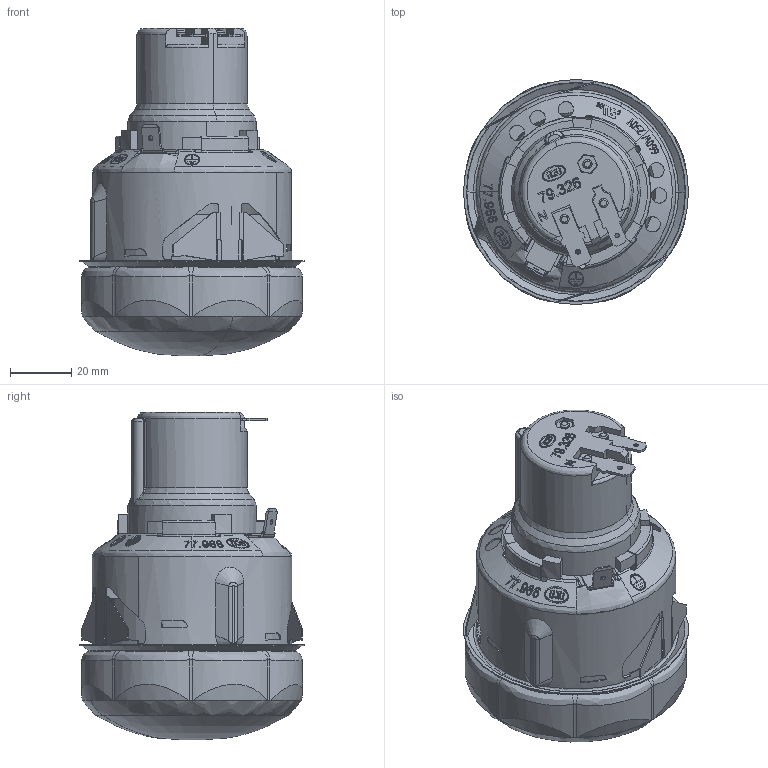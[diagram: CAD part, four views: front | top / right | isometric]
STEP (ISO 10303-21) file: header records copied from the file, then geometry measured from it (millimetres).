
FILE_DESCRIPTION(('CAx-IF Rec.Pracs.---Model Styling and Organization---1.2---2011-12-15','CAx-IF Rec.Pracs.---Geometric and Assembly Validation Properties---4.1---2014-06-16','CAx-IF Rec.Pracs.---PMI Polyline Presentation---2.0---2013-05-24'),'2;1');
FILE_NAME('01JYJ0PY0B.stp','2018-06-12T05:37:36+02:00',(''),(''),'STEP Interface 4.1 Sp1 by CT CoreTechnologie','3D_Evolution4.1 Sp1 by CT CoreTechnologie','');
FILE_SCHEMA(('AUTOMOTIVE_DESIGN { 1 0 10303 214 1 1 1 1 }'));
Length unit declared in the file: millimetre
Products named in the file (11): 01J-J0P-0B; 01J-J08-0A; 01J-J06-0W; 01J-J07-01; 01K-C02-07; 01K-C00-0X; 01K-C03-06; 01K-C04-09; 01K-C0A-03; 00E-R0D-0E; 00B-Z0A-03
Assembly tree (10 placements, depth 3):
  01J-J0P-0B
    01J-J08-0A
      01J-J06-0W
      01J-J07-01
    01K-C02-07
      01K-C00-0X
      01K-C03-06
      01K-C04-09
      01K-C0A-03
    00E-R0D-0E
    00B-Z0A-03
Bounding box: 73.5 x 73.5 x 106.9 mm (x, y, z)
Volume: 120777.1 mm3; surface area: 58485.1 mm2
Topology: 8 solids, 8 shells, 1009 faces, 2839 edges, 1903 vertices
Faces by surface type: plane 529, bspline 273, cylinder 207
Entity records: 52095 total; most frequent: CARTESIAN_POINT 18249, ORIENTED_EDGE 5664, DIRECTION 4790, EDGE_CURVE 2832, VERTEX_POINT 1903, VECTOR 1782, LINE 1782, AXIS2_PLACEMENT_3D 1504
